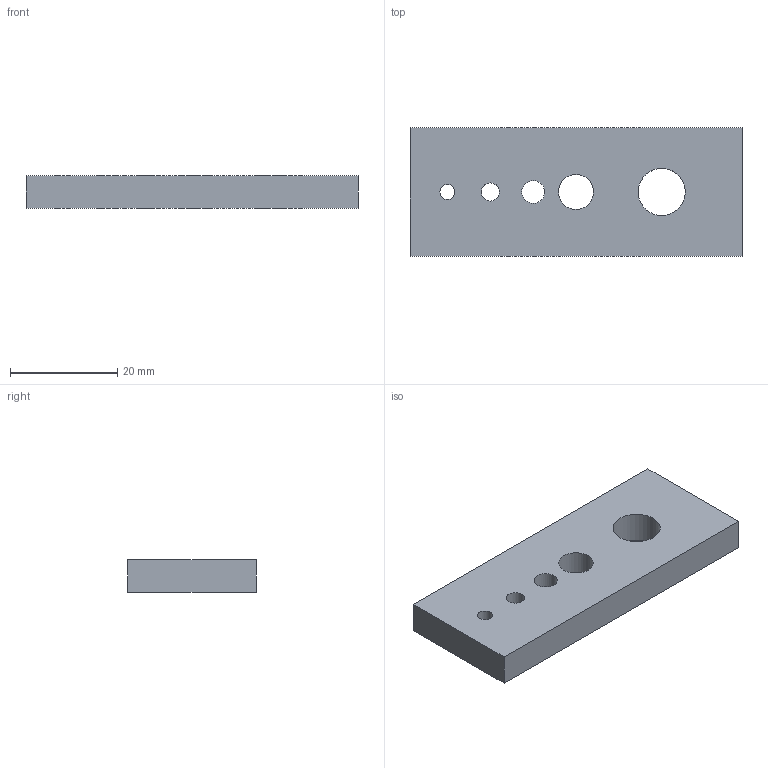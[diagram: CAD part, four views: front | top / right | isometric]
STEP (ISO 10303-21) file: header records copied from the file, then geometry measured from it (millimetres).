
FILE_DESCRIPTION(('Open CASCADE Model'),'2;1');
FILE_NAME('Open CASCADE Shape Model','2026-10-05T06:01:11',('Author'),( 'Open CASCADE'),'Open CASCADE STEP processor 7.8','Open CASCADE 7.8' ,'Unknown');
FILE_SCHEMA(('AUTOMOTIVE_DESIGN { 1 0 10303 214 1 1 1 1 }'));
Length unit declared in the file: millimetre
Products named in the file (1): Open CASCADE STEP translator 7.8 15
Bounding box: 62 x 24 x 6 mm (x, y, z)
Volume: 8182.3 mm3; surface area: 4246.7 mm2
Topology: 1 solids, 1 shells, 11 faces, 27 edges, 18 vertices
Faces by surface type: plane 6, cylinder 5
Full cylindrical faces by diameter (mm): 2.8 x1, 3.4 x1, 4.3 x1, 6.55 x1, 8.8 x1
Entity records: 742 total; most frequent: CARTESIAN_POINT 171, DIRECTION 105, LINE 61, VECTOR 61, ORIENTED_EDGE 54, PCURVE 54, DEFINITIONAL_REPRESENTATION 54, EDGE_CURVE 27
